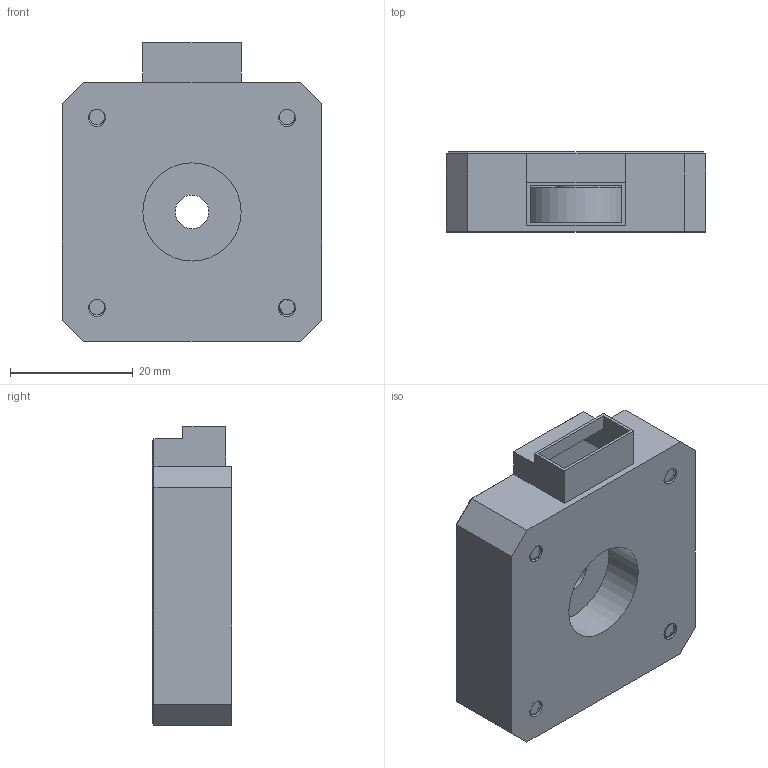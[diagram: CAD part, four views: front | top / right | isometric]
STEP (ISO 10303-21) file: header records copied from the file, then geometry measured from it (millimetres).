
FILE_DESCRIPTION(/* description */ ('STEP AP242 Edition 2','CAx-IF Rec.Pracs.---Representation and Presentation of Product Manufacturing Information (PMI)---4.0---2014-10-13','CAx-IF Rec.Pracs.---3D Tessellated Geometry---0.4---2014-09-14','2;1','CAx-IF Rec.Pracs.---User Defined Attributes---1.5---2016-08-15'),/* implementation_level */ '2;1');
FILE_NAME(/* name */ 'Assembly V2 - palier AR v3',/* time_stamp */ '2026-02-05T22:44:40Z',/* author */ (''),/* organization */ (''),/* preprocessor_version */ 'ST-DEVELOPER v20',/* originating_system */ 'ONSHAPE BY PTC INC, 1.210',/* authorisation */ ' ');
FILE_SCHEMA (('AP242_MANAGED_MODEL_BASED_3D_ENGINEERING_MIM_LF { 1 0 10303 442 3 1 4 }'));
Length unit declared in the file: metre
Products named in the file (1): palier AR v3
Bounding box: 42.3 x 13 x 48.8 mm (x, y, z)
Volume: 2743.6 mm3; surface area: 12864.6 mm2
Topology: 1 solids, 1 shells, 66 faces, 179 edges, 118 vertices
Faces by surface type: plane 45, cylinder 12, bspline 9
Full cylindrical faces by diameter (mm): 5.5 x1, 6.5 x1, 16.01 x1, 17.01 x1
Entity records: 21705 total; most frequent: CARTESIAN_POINT 20100, ORIENTED_EDGE 350, DIRECTION 270, EDGE_CURVE 175, VERTEX_POINT 118, LINE 108, VECTOR 108, EDGE_LOOP 85
